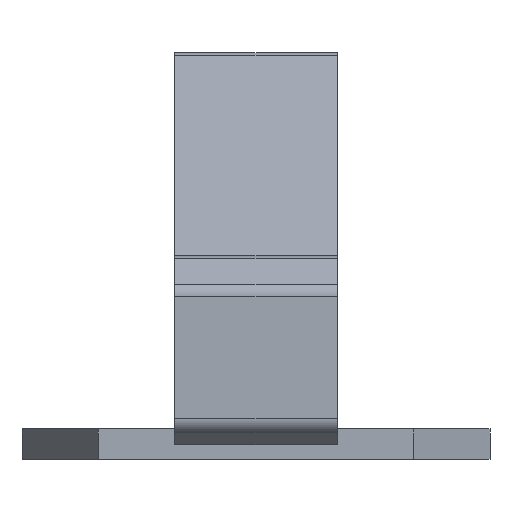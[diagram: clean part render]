
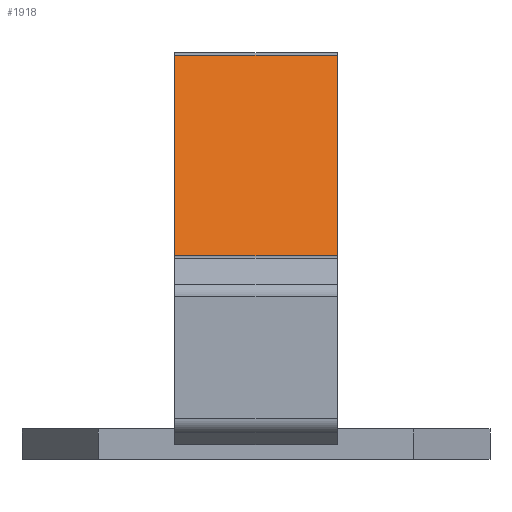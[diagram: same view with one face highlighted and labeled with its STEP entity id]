
A CAD part, front view. The second image highlights one B-rep face of the part: STEP entity #1918.
In plain terms, the highlighted planar face has unit normal (0, -0.555, 0.832).
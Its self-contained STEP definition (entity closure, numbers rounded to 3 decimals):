
#515 = PLANE('',#516);
#516 = AXIS2_PLACEMENT_3D('',#517,#518,#519);
#517 = CARTESIAN_POINT('',(0.4,-1.039,1.088));
#518 = DIRECTION('',(1.,-0.,-0.));
#519 = DIRECTION('',(0.,0.,-1.));
#571 = PLANE('',#572);
#572 = AXIS2_PLACEMENT_3D('',#573,#574,#575);
#573 = CARTESIAN_POINT('',(-0.4,-1.039,1.088));
#574 = DIRECTION('',(1.,-0.,-0.));
#575 = DIRECTION('',(0.,0.,-1.));
#1231 = VERTEX_POINT('',#1232);
#1232 = CARTESIAN_POINT('',(-0.4,-0.673,1.));
#1246 = PLANE('',#1247);
#1247 = AXIS2_PLACEMENT_3D('',#1248,#1249,#1250);
#1248 = CARTESIAN_POINT('',(-0.4,-2.7,1.));
#1249 = DIRECTION('',(-0.,-0.,-1.));
#1250 = DIRECTION('',(0.,-1.,0.));
#1258 = EDGE_CURVE('',#1231,#1259,#1261,.T.);
#1259 = VERTEX_POINT('',#1260);
#1260 = CARTESIAN_POINT('',(-0.4,0.808,1.987));
#1261 = SURFACE_CURVE('',#1262,(#1266,#1273),.PCURVE_S1.);
#1262 = LINE('',#1263,#1264);
#1263 = CARTESIAN_POINT('',(-0.4,-0.692,0.987));
#1264 = VECTOR('',#1265,1.);
#1265 = DIRECTION('',(-0.,0.832,0.555));
#1266 = PCURVE('',#571,#1267);
#1267 = DEFINITIONAL_REPRESENTATION('',(#1268),#1272);
#1268 = LINE('',#1269,#1270);
#1269 = CARTESIAN_POINT('',(0.101,0.347));
#1270 = VECTOR('',#1271,1.);
#1271 = DIRECTION('',(-0.555,0.832));
#1272 = ( GEOMETRIC_REPRESENTATION_CONTEXT(2) 
PARAMETRIC_REPRESENTATION_CONTEXT() REPRESENTATION_CONTEXT('2D SPACE',''
  ) );
#1273 = PCURVE('',#1274,#1279);
#1274 = PLANE('',#1275);
#1275 = AXIS2_PLACEMENT_3D('',#1276,#1277,#1278);
#1276 = CARTESIAN_POINT('',(-0.4,-0.673,1.));
#1277 = DIRECTION('',(0.,0.555,-0.832));
#1278 = DIRECTION('',(0.,-0.832,-0.555));
#1279 = DEFINITIONAL_REPRESENTATION('',(#1280),#1284);
#1280 = LINE('',#1281,#1282);
#1281 = CARTESIAN_POINT('',(0.023,-0.));
#1282 = VECTOR('',#1283,1.);
#1283 = DIRECTION('',(-1.,0.));
#1284 = ( GEOMETRIC_REPRESENTATION_CONTEXT(2) 
PARAMETRIC_REPRESENTATION_CONTEXT() REPRESENTATION_CONTEXT('2D SPACE',''
  ) );
#1303 = CYLINDRICAL_SURFACE('',#1304,0.075);
#1304 = AXIS2_PLACEMENT_3D('',#1305,#1306,#1307);
#1305 = CARTESIAN_POINT('',(-0.4,0.85,1.925));
#1306 = DIRECTION('',(-1.,-0.,0.));
#1307 = DIRECTION('',(0.,0.811,-0.585));
#1701 = VERTEX_POINT('',#1702);
#1702 = CARTESIAN_POINT('',(0.4,-0.673,1.));
#1723 = EDGE_CURVE('',#1701,#1724,#1726,.T.);
#1724 = VERTEX_POINT('',#1725);
#1725 = CARTESIAN_POINT('',(0.4,0.808,1.987));
#1726 = SURFACE_CURVE('',#1727,(#1731,#1738),.PCURVE_S1.);
#1727 = LINE('',#1728,#1729);
#1728 = CARTESIAN_POINT('',(0.4,-0.692,0.987));
#1729 = VECTOR('',#1730,1.);
#1730 = DIRECTION('',(-0.,0.832,0.555));
#1731 = PCURVE('',#515,#1732);
#1732 = DEFINITIONAL_REPRESENTATION('',(#1733),#1737);
#1733 = LINE('',#1734,#1735);
#1734 = CARTESIAN_POINT('',(0.101,0.347));
#1735 = VECTOR('',#1736,1.);
#1736 = DIRECTION('',(-0.555,0.832));
#1737 = ( GEOMETRIC_REPRESENTATION_CONTEXT(2) 
PARAMETRIC_REPRESENTATION_CONTEXT() REPRESENTATION_CONTEXT('2D SPACE',''
  ) );
#1738 = PCURVE('',#1274,#1739);
#1739 = DEFINITIONAL_REPRESENTATION('',(#1740),#1744);
#1740 = LINE('',#1741,#1742);
#1741 = CARTESIAN_POINT('',(0.023,-0.8));
#1742 = VECTOR('',#1743,1.);
#1743 = DIRECTION('',(-1.,0.));
#1744 = ( GEOMETRIC_REPRESENTATION_CONTEXT(2) 
PARAMETRIC_REPRESENTATION_CONTEXT() REPRESENTATION_CONTEXT('2D SPACE',''
  ) );
#1897 = EDGE_CURVE('',#1259,#1724,#1898,.T.);
#1898 = SURFACE_CURVE('',#1899,(#1903,#1910),.PCURVE_S1.);
#1899 = LINE('',#1900,#1901);
#1900 = CARTESIAN_POINT('',(-0.4,0.808,1.987));
#1901 = VECTOR('',#1902,1.);
#1902 = DIRECTION('',(1.,-0.,-0.));
#1903 = PCURVE('',#1303,#1904);
#1904 = DEFINITIONAL_REPRESENTATION('',(#1905),#1909);
#1905 = LINE('',#1906,#1907);
#1906 = CARTESIAN_POINT('',(-2.784,0.));
#1907 = VECTOR('',#1908,1.);
#1908 = DIRECTION('',(-0.,-1.));
#1909 = ( GEOMETRIC_REPRESENTATION_CONTEXT(2) 
PARAMETRIC_REPRESENTATION_CONTEXT() REPRESENTATION_CONTEXT('2D SPACE',''
  ) );
#1910 = PCURVE('',#1274,#1911);
#1911 = DEFINITIONAL_REPRESENTATION('',(#1912),#1916);
#1912 = LINE('',#1913,#1914);
#1913 = CARTESIAN_POINT('',(-1.78,0.));
#1914 = VECTOR('',#1915,1.);
#1915 = DIRECTION('',(-0.,-1.));
#1916 = ( GEOMETRIC_REPRESENTATION_CONTEXT(2) 
PARAMETRIC_REPRESENTATION_CONTEXT() REPRESENTATION_CONTEXT('2D SPACE',''
  ) );
#1918 = ADVANCED_FACE('',(#1919),#1274,.F.);
#1919 = FACE_BOUND('',#1920,.T.);
#1920 = EDGE_LOOP('',(#1921,#1942,#1943,#1944));
#1921 = ORIENTED_EDGE('',*,*,#1922,.T.);
#1922 = EDGE_CURVE('',#1231,#1701,#1923,.T.);
#1923 = SURFACE_CURVE('',#1924,(#1928,#1935),.PCURVE_S1.);
#1924 = LINE('',#1925,#1926);
#1925 = CARTESIAN_POINT('',(-0.4,-0.673,1.));
#1926 = VECTOR('',#1927,1.);
#1927 = DIRECTION('',(1.,-0.,-0.));
#1928 = PCURVE('',#1274,#1929);
#1929 = DEFINITIONAL_REPRESENTATION('',(#1930),#1934);
#1930 = LINE('',#1931,#1932);
#1931 = CARTESIAN_POINT('',(-0.,0.));
#1932 = VECTOR('',#1933,1.);
#1933 = DIRECTION('',(-0.,-1.));
#1934 = ( GEOMETRIC_REPRESENTATION_CONTEXT(2) 
PARAMETRIC_REPRESENTATION_CONTEXT() REPRESENTATION_CONTEXT('2D SPACE',''
  ) );
#1935 = PCURVE('',#1246,#1936);
#1936 = DEFINITIONAL_REPRESENTATION('',(#1937),#1941);
#1937 = LINE('',#1938,#1939);
#1938 = CARTESIAN_POINT('',(-2.027,0.));
#1939 = VECTOR('',#1940,1.);
#1940 = DIRECTION('',(-0.,-1.));
#1941 = ( GEOMETRIC_REPRESENTATION_CONTEXT(2) 
PARAMETRIC_REPRESENTATION_CONTEXT() REPRESENTATION_CONTEXT('2D SPACE',''
  ) );
#1942 = ORIENTED_EDGE('',*,*,#1723,.T.);
#1943 = ORIENTED_EDGE('',*,*,#1897,.F.);
#1944 = ORIENTED_EDGE('',*,*,#1258,.F.);
